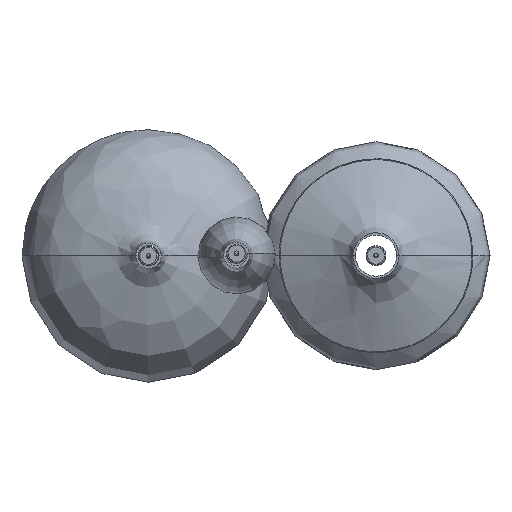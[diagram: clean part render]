
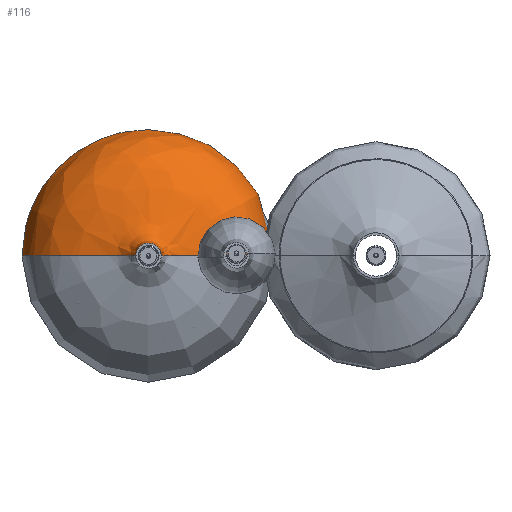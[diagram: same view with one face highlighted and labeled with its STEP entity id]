
A CAD part, top view. The second image highlights one B-rep face of the part: STEP entity #116.
In plain terms, the highlighted free-form (B-spline) face has degree [3, 2] with [8, 5] control points.
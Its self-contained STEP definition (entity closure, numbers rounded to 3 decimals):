
#52=B_SPLINE_CURVE_WITH_KNOTS('',3,(#2952,#2953,#2954,#2955,#2956,#2957,
#2958,#2959),.UNSPECIFIED.,.F.,.F.,(4,1,1,1,1,4),(0.,58.339,116.678,
175.017,233.355,291.694),.UNSPECIFIED.);
#116=ADVANCED_FACE('',(#175),#791,.T.);
#175=FACE_OUTER_BOUND('',#239,.T.);
#239=EDGE_LOOP('',(#366,#367,#368,#369));
#366=ORIENTED_EDGE('',*,*,#545,.T.);
#367=ORIENTED_EDGE('',*,*,#544,.F.);
#368=ORIENTED_EDGE('',*,*,#543,.F.);
#369=ORIENTED_EDGE('',*,*,#546,.F.);
#543=EDGE_CURVE('',#727,#728,#52,.T.);
#544=EDGE_CURVE('',#728,#730,#645,.T.);
#545=EDGE_CURVE('',#729,#730,#646,.T.);
#546=EDGE_CURVE('',#729,#727,#647,.T.);
#645=(
BOUNDED_CURVE()
B_SPLINE_CURVE(2,(#2960,#2961,#2962,#2963,#2964),.UNSPECIFIED.,.F.,.F.)
B_SPLINE_CURVE_WITH_KNOTS((3,2,3),(-1723.696,-1292.772,
-861.848),.UNSPECIFIED.)
CURVE()
GEOMETRIC_REPRESENTATION_ITEM()
RATIONAL_B_SPLINE_CURVE((1.,0.707,1.,0.707,1.))
REPRESENTATION_ITEM('')
);
#646=(
BOUNDED_CURVE()
B_SPLINE_CURVE(3,(#2965,#2966,#2967,#2968,#2969,#2970,#2971,#2972),
 .UNSPECIFIED.,.F.,.F.)
B_SPLINE_CURVE_WITH_KNOTS((4,1,1,1,1,4),(0.,58.339,116.678,
175.017,233.355,291.694),.UNSPECIFIED.)
CURVE()
GEOMETRIC_REPRESENTATION_ITEM()
RATIONAL_B_SPLINE_CURVE((1.,1.,1.,1.,1.,1.,1.,1.))
REPRESENTATION_ITEM('')
);
#647=(
BOUNDED_CURVE()
B_SPLINE_CURVE(2,(#2973,#2974,#2975,#2976,#2977),.UNSPECIFIED.,.F.,.F.)
B_SPLINE_CURVE_WITH_KNOTS((3,2,3),(861.848,1292.772,1723.696),
 .UNSPECIFIED.)
CURVE()
GEOMETRIC_REPRESENTATION_ITEM()
RATIONAL_B_SPLINE_CURVE((1.,0.707,1.,0.707,1.))
REPRESENTATION_ITEM('')
);
#727=VERTEX_POINT('',#2939);
#728=VERTEX_POINT('',#2940);
#729=VERTEX_POINT('',#2941);
#730=VERTEX_POINT('',#2942);
#791=(
BOUNDED_SURFACE()
B_SPLINE_SURFACE(3,2,((#1725,#1726,#1727,#1728,#1729),(#1730,#1731,#1732,
#1733,#1734),(#1735,#1736,#1737,#1738,#1739),(#1740,#1741,#1742,#1743,#1744),
(#1745,#1746,#1747,#1748,#1749),(#1750,#1751,#1752,#1753,#1754),(#1755,
#1756,#1757,#1758,#1759),(#1760,#1761,#1762,#1763,#1764)),.UNSPECIFIED.,
 .F.,.F.,.F.)
B_SPLINE_SURFACE_WITH_KNOTS((4,1,1,1,1,4),(3,2,3),(0.,58.339,
116.678,175.017,233.355,291.694),(0.,
560.366,1120.733),.UNSPECIFIED.)
GEOMETRIC_REPRESENTATION_ITEM()
RATIONAL_B_SPLINE_SURFACE(((1.,0.707,1.,0.707,1.),
(1.,0.707,1.,0.707,1.),(1.,0.707,1.,
0.707,1.),(1.,0.707,1.,0.707,1.),(1.,
0.707,1.,0.707,1.),(1.,0.707,1.,0.707,
1.),(1.,0.707,1.,0.707,1.),(1.,0.707,
1.,0.707,1.)))
REPRESENTATION_ITEM('')
SURFACE()
);
#1725=CARTESIAN_POINT('',(562.429,0.,200.));
#1726=CARTESIAN_POINT('',(562.429,27.5,200.));
#1727=CARTESIAN_POINT('',(534.929,27.5,200.));
#1728=CARTESIAN_POINT('',(507.429,27.5,200.));
#1729=CARTESIAN_POINT('',(507.429,0.,200.));
#1730=CARTESIAN_POINT('',(562.429,0.,136.306));
#1731=CARTESIAN_POINT('',(562.429,27.5,136.306));
#1732=CARTESIAN_POINT('',(534.929,27.5,136.306));
#1733=CARTESIAN_POINT('',(507.429,27.5,136.306));
#1734=CARTESIAN_POINT('',(507.429,0.,136.306));
#1735=CARTESIAN_POINT('',(701.377,0.,132.39));
#1736=CARTESIAN_POINT('',(701.377,166.449,132.39));
#1737=CARTESIAN_POINT('',(534.929,166.449,132.39));
#1738=CARTESIAN_POINT('',(368.48,166.449,132.39));
#1739=CARTESIAN_POINT('',(368.48,0.,132.39));
#1740=CARTESIAN_POINT('',(810.227,0.,37.664));
#1741=CARTESIAN_POINT('',(810.227,275.299,37.664));
#1742=CARTESIAN_POINT('',(534.929,275.299,37.664));
#1743=CARTESIAN_POINT('',(259.63,275.299,37.664));
#1744=CARTESIAN_POINT('',(259.63,0.,37.664));
#1745=CARTESIAN_POINT('',(815.112,0.,-100.686));
#1746=CARTESIAN_POINT('',(815.112,280.183,-100.686));
#1747=CARTESIAN_POINT('',(534.929,280.183,-100.686));
#1748=CARTESIAN_POINT('',(254.745,280.183,-100.686));
#1749=CARTESIAN_POINT('',(254.745,0.,-100.686));
#1750=CARTESIAN_POINT('',(742.777,0.,-185.343));
#1751=CARTESIAN_POINT('',(742.777,207.848,-185.343));
#1752=CARTESIAN_POINT('',(534.929,207.848,-185.343));
#1753=CARTESIAN_POINT('',(327.081,207.848,-185.343));
#1754=CARTESIAN_POINT('',(327.081,0.,-185.343));
#1755=CARTESIAN_POINT('',(705.418,0.,-200.));
#1756=CARTESIAN_POINT('',(705.418,170.49,-200.));
#1757=CARTESIAN_POINT('',(534.929,170.49,-200.));
#1758=CARTESIAN_POINT('',(364.439,170.49,-200.));
#1759=CARTESIAN_POINT('',(364.439,0.,-200.));
#1760=CARTESIAN_POINT('',(642.199,0.,-200.));
#1761=CARTESIAN_POINT('',(642.199,107.27,-200.));
#1762=CARTESIAN_POINT('',(534.929,107.27,-200.));
#1763=CARTESIAN_POINT('',(427.658,107.27,-200.));
#1764=CARTESIAN_POINT('',(427.658,0.,-200.));
#2939=CARTESIAN_POINT('',(507.429,0.,200.));
#2940=CARTESIAN_POINT('',(427.658,0.,-200.));
#2941=CARTESIAN_POINT('',(562.429,0.,200.));
#2942=CARTESIAN_POINT('',(642.199,0.,-200.));
#2952=CARTESIAN_POINT('',(507.429,0.,200.));
#2953=CARTESIAN_POINT('',(507.429,0.,136.306));
#2954=CARTESIAN_POINT('',(368.48,0.,132.39));
#2955=CARTESIAN_POINT('',(259.63,0.,37.664));
#2956=CARTESIAN_POINT('',(254.745,0.,-100.686));
#2957=CARTESIAN_POINT('',(327.081,0.,-185.343));
#2958=CARTESIAN_POINT('',(364.439,0.,-200.));
#2959=CARTESIAN_POINT('',(427.658,0.,-200.));
#2960=CARTESIAN_POINT('',(427.658,0.,-200.));
#2961=CARTESIAN_POINT('',(427.658,107.27,-200.));
#2962=CARTESIAN_POINT('',(534.929,107.27,-200.));
#2963=CARTESIAN_POINT('',(642.199,107.27,-200.));
#2964=CARTESIAN_POINT('',(642.199,0.,-200.));
#2965=CARTESIAN_POINT('',(562.429,0.,200.));
#2966=CARTESIAN_POINT('',(562.429,0.,136.306));
#2967=CARTESIAN_POINT('',(701.377,0.,132.39));
#2968=CARTESIAN_POINT('',(810.227,0.,37.664));
#2969=CARTESIAN_POINT('',(815.112,0.,-100.686));
#2970=CARTESIAN_POINT('',(742.777,0.,-185.343));
#2971=CARTESIAN_POINT('',(705.418,0.,-200.));
#2972=CARTESIAN_POINT('',(642.199,0.,-200.));
#2973=CARTESIAN_POINT('',(562.429,0.,200.));
#2974=CARTESIAN_POINT('',(562.429,27.5,200.));
#2975=CARTESIAN_POINT('',(534.929,27.5,200.));
#2976=CARTESIAN_POINT('',(507.429,27.5,200.));
#2977=CARTESIAN_POINT('',(507.429,0.,200.));
